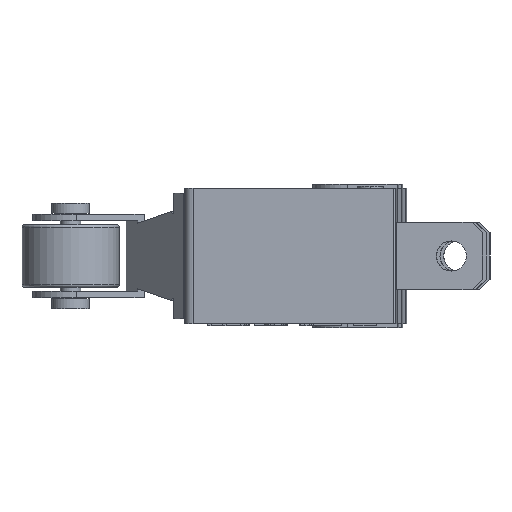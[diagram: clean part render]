
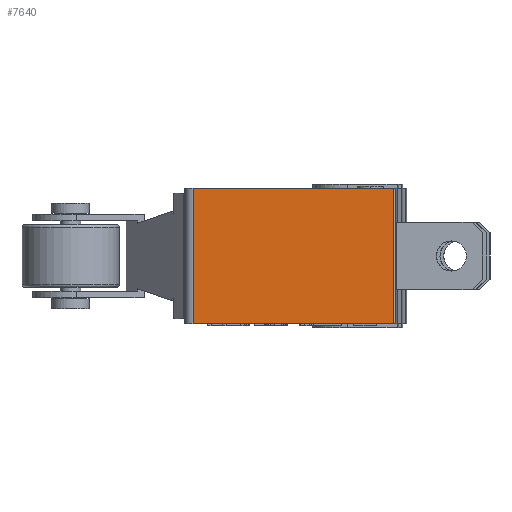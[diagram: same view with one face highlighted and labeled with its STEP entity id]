
A CAD part, left-side view. The second image highlights one B-rep face of the part: STEP entity #7640.
In plain terms, the highlighted planar face has unit normal (-1, 0.021, 0) as drawn and (-1, 0, 0) by its records, which use the part's own axes.
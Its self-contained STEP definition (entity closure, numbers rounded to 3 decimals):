
#481=FACE_OUTER_BOUND('',#944,.T.);
#944=EDGE_LOOP('',(#5440,#5441,#5442,#5443));
#1403=LINE('',#10274,#2261);
#1550=LINE('',#11857,#2408);
#1629=LINE('',#12434,#2487);
#1630=LINE('',#12436,#2488);
#2261=VECTOR('',#8573,9.65);
#2408=VECTOR('',#8732,9.65);
#2487=VECTOR('',#8839,6.5);
#2488=VECTOR('',#8842,6.5);
#3197=VERTEX_POINT('',#10271);
#3198=VERTEX_POINT('',#10273);
#3420=VERTEX_POINT('',#11854);
#3421=VERTEX_POINT('',#11856);
#3953=EDGE_CURVE('',#3198,#3197,#1403,.T.);
#4176=EDGE_CURVE('',#3420,#3421,#1550,.T.);
#4280=EDGE_CURVE('',#3420,#3198,#1629,.T.);
#4281=EDGE_CURVE('',#3197,#3421,#1630,.F.);
#5440=ORIENTED_EDGE('',*,*,#3953,.T.);
#5441=ORIENTED_EDGE('',*,*,#4281,.T.);
#5442=ORIENTED_EDGE('',*,*,#4176,.F.);
#5443=ORIENTED_EDGE('',*,*,#4280,.T.);
#7346=PLANE('',#8157);
#7640=ADVANCED_FACE('',(#481),#7346,.F.);
#8157=AXIS2_PLACEMENT_3D('',#12435,#8840,#8841);
#8573=DIRECTION('',(0.,-1.,0.));
#8732=DIRECTION('',(0.,-1.,0.));
#8839=DIRECTION('',(0.,0.,-1.));
#8840=DIRECTION('center_axis',(1.,0.,0.));
#8841=DIRECTION('ref_axis',(0.,0.,-1.));
#8842=DIRECTION('',(0.,0.,-1.));
#10271=CARTESIAN_POINT('',(0.,-10.05,0.));
#10273=CARTESIAN_POINT('',(0.,-0.4,0.));
#10274=CARTESIAN_POINT('',(0.,-0.4,0.));
#11854=CARTESIAN_POINT('',(0.,-0.4,6.5));
#11856=CARTESIAN_POINT('',(0.,-10.05,6.5));
#11857=CARTESIAN_POINT('',(0.,-0.4,6.5));
#12434=CARTESIAN_POINT('',(0.,-0.4,6.5));
#12435=CARTESIAN_POINT('Origin',(0.,-0.4,6.5));
#12436=CARTESIAN_POINT('',(0.,-10.05,6.5));
